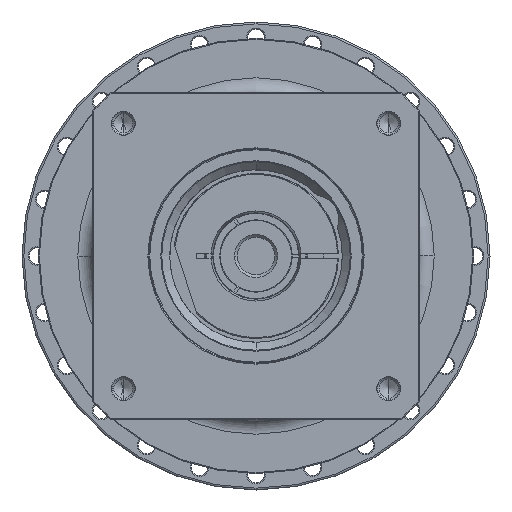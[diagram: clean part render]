
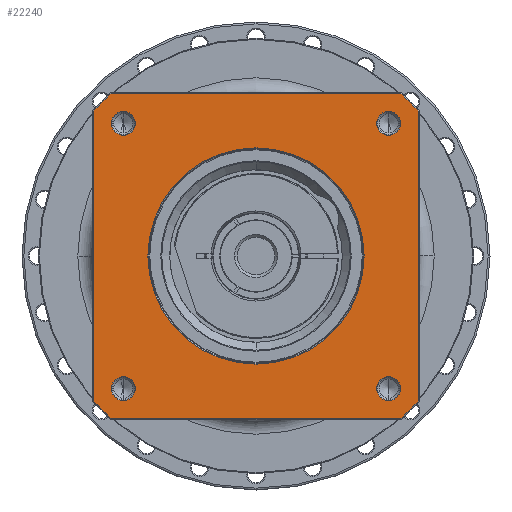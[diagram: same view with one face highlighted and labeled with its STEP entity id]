
A CAD part, left-side view. The second image highlights one B-rep face of the part: STEP entity #22240.
In plain terms, the highlighted planar face has unit normal (-1, 0, 0) as drawn and (0, 0, 1) by its records, which use the part's own axes.
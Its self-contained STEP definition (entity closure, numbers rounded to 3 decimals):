
#20991=CARTESIAN_POINT('',(0.,0.,
76.));
#20992=DIRECTION('',(0.,0.,-1.));
#20993=DIRECTION('',(0.,-1.,0.));
#20994=AXIS2_PLACEMENT_3D('',#20991,#20992,#20993);
#20996=CARTESIAN_POINT('',(0.,0.,
76.));
#20997=DIRECTION('',(0.,0.,-1.));
#20998=DIRECTION('',(0.,1.,0.));
#20999=AXIS2_PLACEMENT_3D('',#20996,#20997,#20998);
#21001=CARTESIAN_POINT('',(0.,0.,76.));
#21002=DIRECTION('',(0.,0.,1.));
#21003=DIRECTION('',(-0.746,-0.666,0.));
#21004=AXIS2_PLACEMENT_3D('',#21001,#21002,#21003);
#21016=DIRECTION('',(1.,0.,0.));
#21017=VECTOR('',#21016,154.58);
#21018=CARTESIAN_POINT('',(-77.29,-86.5,76.));
#21019=LINE('',#21018,#21017);
#21029=CARTESIAN_POINT('',(0.,0.,76.));
#21030=DIRECTION('',(0.,0.,1.));
#21031=DIRECTION('',(0.666,-0.746,0.));
#21032=AXIS2_PLACEMENT_3D('',#21029,#21030,#21031);
#21044=DIRECTION('',(0.,1.,0.));
#21045=VECTOR('',#21044,154.58);
#21046=CARTESIAN_POINT('',(86.5,-77.29,76.));
#21047=LINE('',#21046,#21045);
#21057=CARTESIAN_POINT('',(0.,0.,76.));
#21058=DIRECTION('',(0.,0.,1.));
#21059=DIRECTION('',(0.746,0.666,0.));
#21060=AXIS2_PLACEMENT_3D('',#21057,#21058,#21059);
#21072=DIRECTION('',(-1.,0.,0.));
#21073=VECTOR('',#21072,154.58);
#21074=CARTESIAN_POINT('',(77.29,86.5,76.));
#21075=LINE('',#21074,#21073);
#21080=CARTESIAN_POINT('',(0.,0.,76.));
#21081=DIRECTION('',(0.,0.,1.));
#21082=DIRECTION('',(-0.666,0.746,0.));
#21083=AXIS2_PLACEMENT_3D('',#21080,#21081,#21082);
#21100=DIRECTION('',(0.,-1.,0.));
#21101=VECTOR('',#21100,154.58);
#21102=CARTESIAN_POINT('',(-86.5,77.29,76.));
#21103=LINE('',#21102,#21101);
#21186=CARTESIAN_POINT('',(-70.711,70.711,76.));
#21187=DIRECTION('',(0.,0.,1.));
#21188=DIRECTION('',(-1.,0.,0.));
#21189=AXIS2_PLACEMENT_3D('',#21186,#21187,#21188);
#21204=CARTESIAN_POINT('',(-70.711,70.711,76.));
#21205=DIRECTION('',(0.,0.,1.));
#21206=DIRECTION('',(1.,0.,0.));
#21207=AXIS2_PLACEMENT_3D('',#21204,#21205,#21206);
#21240=CARTESIAN_POINT('',(70.711,70.711,76.));
#21241=DIRECTION('',(0.,0.,1.));
#21242=DIRECTION('',(-1.,0.,0.));
#21243=AXIS2_PLACEMENT_3D('',#21240,#21241,#21242);
#21258=CARTESIAN_POINT('',(70.711,70.711,76.));
#21259=DIRECTION('',(0.,0.,1.));
#21260=DIRECTION('',(1.,0.,0.));
#21261=AXIS2_PLACEMENT_3D('',#21258,#21259,#21260);
#21294=CARTESIAN_POINT('',(70.711,-70.711,76.));
#21295=DIRECTION('',(0.,0.,1.));
#21296=DIRECTION('',(-1.,0.,0.));
#21297=AXIS2_PLACEMENT_3D('',#21294,#21295,#21296);
#21312=CARTESIAN_POINT('',(70.711,-70.711,76.));
#21313=DIRECTION('',(0.,0.,1.));
#21314=DIRECTION('',(1.,0.,0.));
#21315=AXIS2_PLACEMENT_3D('',#21312,#21313,#21314);
#21348=CARTESIAN_POINT('',(-70.711,-70.711,76.));
#21349=DIRECTION('',(0.,0.,1.));
#21350=DIRECTION('',(-1.,0.,0.));
#21351=AXIS2_PLACEMENT_3D('',#21348,#21349,#21350);
#21366=CARTESIAN_POINT('',(-70.711,-70.711,76.));
#21367=DIRECTION('',(0.,0.,1.));
#21368=DIRECTION('',(1.,0.,0.));
#21369=AXIS2_PLACEMENT_3D('',#21366,#21367,#21368);
#21498=CARTESIAN_POINT('',(86.5,-77.29,76.));
#21499=CARTESIAN_POINT('',(86.5,77.29,76.));
#21500=VERTEX_POINT('',#21498);
#21501=VERTEX_POINT('',#21499);
#21506=CARTESIAN_POINT('',(77.29,-86.5,76.));
#21507=VERTEX_POINT('',#21506);
#21510=CARTESIAN_POINT('',(-77.29,-86.5,76.));
#21511=VERTEX_POINT('',#21510);
#21514=CARTESIAN_POINT('',(-86.5,-77.29,76.));
#21515=VERTEX_POINT('',#21514);
#21518=CARTESIAN_POINT('',(-86.5,77.29,76.));
#21519=VERTEX_POINT('',#21518);
#21522=CARTESIAN_POINT('',(-77.29,86.5,76.));
#21523=VERTEX_POINT('',#21522);
#21526=CARTESIAN_POINT('',(77.29,86.5,76.));
#21527=VERTEX_POINT('',#21526);
#21536=CARTESIAN_POINT('',(-77.111,70.711,76.));
#21537=CARTESIAN_POINT('',(-64.311,70.711,76.));
#21538=VERTEX_POINT('',#21536);
#21539=VERTEX_POINT('',#21537);
#21562=CARTESIAN_POINT('',(77.111,70.711,76.));
#21563=CARTESIAN_POINT('',(64.311,70.711,76.));
#21564=VERTEX_POINT('',#21562);
#21565=VERTEX_POINT('',#21563);
#21570=CARTESIAN_POINT('',(77.111,-70.711,76.));
#21571=CARTESIAN_POINT('',(64.311,-70.711,76.));
#21572=VERTEX_POINT('',#21570);
#21573=VERTEX_POINT('',#21571);
#21578=CARTESIAN_POINT('',(-64.311,-70.711,76.));
#21579=CARTESIAN_POINT('',(-77.111,-70.711,76.));
#21580=VERTEX_POINT('',#21578);
#21581=VERTEX_POINT('',#21579);
#21586=CARTESIAN_POINT('',(0.,-57.65,76.));
#21587=CARTESIAN_POINT('',(0.,57.65,
76.));
#21588=VERTEX_POINT('',#21586);
#21589=VERTEX_POINT('',#21587);
#22188=CARTESIAN_POINT('',(0.,0.,76.));
#22189=DIRECTION('',(0.,0.,1.));
#22190=DIRECTION('',(1.,0.,0.));
#22191=AXIS2_PLACEMENT_3D('',#22188,#22189,#22190);
#22192=PLANE('',#22191);
#22194=ORIENTED_EDGE('',*,*,#22193,.F.);
#22196=ORIENTED_EDGE('',*,*,#22195,.F.);
#22198=ORIENTED_EDGE('',*,*,#22197,.F.);
#22200=ORIENTED_EDGE('',*,*,#22199,.F.);
#22202=ORIENTED_EDGE('',*,*,#22201,.F.);
#22204=ORIENTED_EDGE('',*,*,#22203,.F.);
#22206=ORIENTED_EDGE('',*,*,#22205,.F.);
#22208=ORIENTED_EDGE('',*,*,#22207,.F.);
#22209=EDGE_LOOP('',(#22194,#22196,#22198,#22200,#22202,#22204,#22206,#22208));
#22210=FACE_OUTER_BOUND('',#22209,.F.);
#22211=ORIENTED_EDGE('',*,*,#22178,.F.);
#22213=ORIENTED_EDGE('',*,*,#22212,.F.);
#22214=EDGE_LOOP('',(#22211,#22213));
#22215=FACE_BOUND('',#22214,.F.);
#22217=ORIENTED_EDGE('',*,*,#22216,.T.);
#22219=ORIENTED_EDGE('',*,*,#22218,.T.);
#22220=EDGE_LOOP('',(#22217,#22219));
#22221=FACE_BOUND('',#22220,.F.);
#22223=ORIENTED_EDGE('',*,*,#22222,.T.);
#22225=ORIENTED_EDGE('',*,*,#22224,.T.);
#22226=EDGE_LOOP('',(#22223,#22225));
#22227=FACE_BOUND('',#22226,.F.);
#22229=ORIENTED_EDGE('',*,*,#22228,.T.);
#22231=ORIENTED_EDGE('',*,*,#22230,.T.);
#22232=EDGE_LOOP('',(#22229,#22231));
#22233=FACE_BOUND('',#22232,.F.);
#22235=ORIENTED_EDGE('',*,*,#22234,.T.);
#22237=ORIENTED_EDGE('',*,*,#22236,.T.);
#22238=EDGE_LOOP('',(#22235,#22237));
#22239=FACE_BOUND('',#22238,.F.);
#22240=ADVANCED_FACE('',(#22210,#22215,#22221,#22227,#22233,#22239),#22192,.T.);
#20995=CIRCLE('',#20994,57.65);
#21000=CIRCLE('',#20999,57.65);
#21005=CIRCLE('',#21004,116.);
#21033=CIRCLE('',#21032,116.);
#21061=CIRCLE('',#21060,116.);
#21084=CIRCLE('',#21083,116.);
#21190=CIRCLE('',#21189,6.4);
#21208=CIRCLE('',#21207,6.4);
#21244=CIRCLE('',#21243,6.4);
#21262=CIRCLE('',#21261,6.4);
#21298=CIRCLE('',#21297,6.4);
#21316=CIRCLE('',#21315,6.4);
#21352=CIRCLE('',#21351,6.4);
#21370=CIRCLE('',#21369,6.4);
#22178=EDGE_CURVE('',#21588,#21589,#20995,.T.);
#22193=EDGE_CURVE('',#21515,#21511,#21005,.T.);
#22195=EDGE_CURVE('',#21519,#21515,#21103,.T.);
#22197=EDGE_CURVE('',#21523,#21519,#21084,.T.);
#22199=EDGE_CURVE('',#21527,#21523,#21075,.T.);
#22201=EDGE_CURVE('',#21501,#21527,#21061,.T.);
#22203=EDGE_CURVE('',#21500,#21501,#21047,.T.);
#22205=EDGE_CURVE('',#21507,#21500,#21033,.T.);
#22207=EDGE_CURVE('',#21511,#21507,#21019,.T.);
#22212=EDGE_CURVE('',#21589,#21588,#21000,.T.);
#22216=EDGE_CURVE('',#21538,#21539,#21190,.T.);
#22218=EDGE_CURVE('',#21539,#21538,#21208,.T.);
#22222=EDGE_CURVE('',#21565,#21564,#21244,.T.);
#22224=EDGE_CURVE('',#21564,#21565,#21262,.T.);
#22228=EDGE_CURVE('',#21573,#21572,#21298,.T.);
#22230=EDGE_CURVE('',#21572,#21573,#21316,.T.);
#22234=EDGE_CURVE('',#21581,#21580,#21352,.T.);
#22236=EDGE_CURVE('',#21580,#21581,#21370,.T.);
